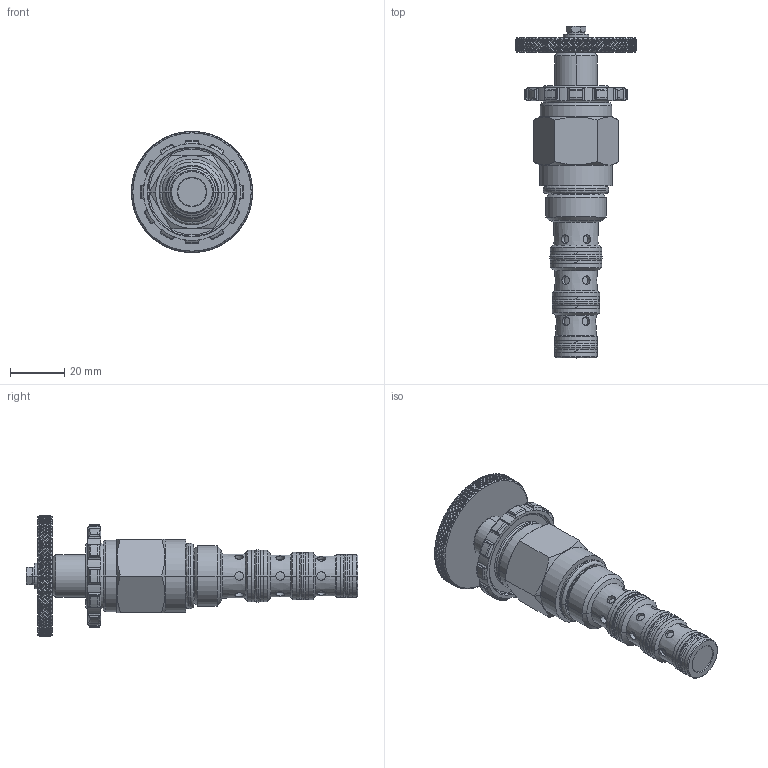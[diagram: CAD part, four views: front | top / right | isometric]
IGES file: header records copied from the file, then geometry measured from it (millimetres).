
Start section:  PTC IGES file: DCPS-10-A-M.igs
Global section: file name: DCPS-10-A-M.igs; native system: Creo Elements/Pro by Parametric Technology Corporation; preprocessor: 2015070; author: torrese; organization: Unknown; date: 20151221.152310; units: inch
Bounding box: 44.45 x 122 x 44.45 mm (x, y, z)
Volume: 49628.3 mm3; surface area: 14695.4 mm2
Topology: 1 solids, 1 shells, 2715 faces, 5888 edges, 3207 vertices
Faces by surface type: bspline 1996, revolution 719
